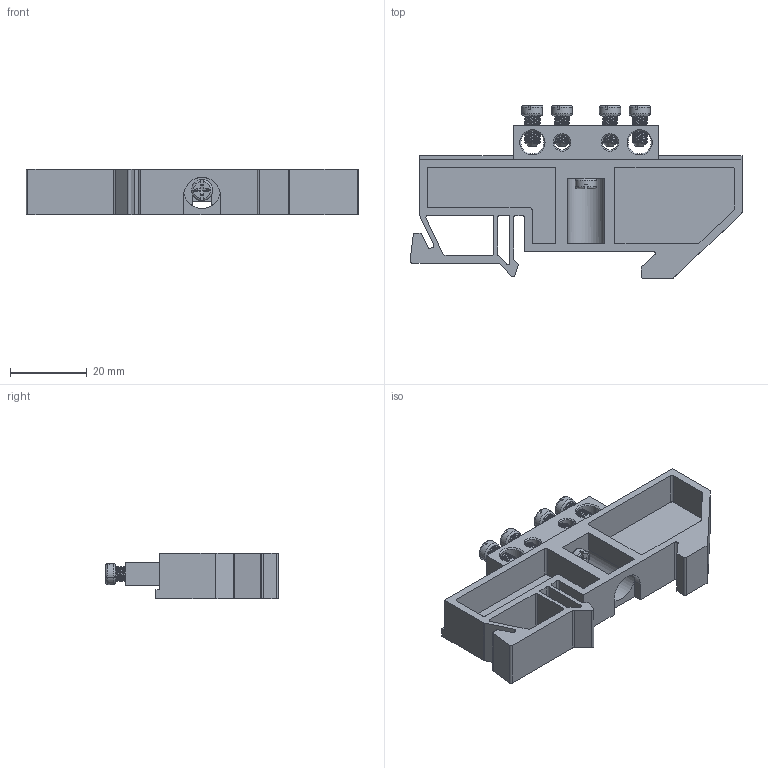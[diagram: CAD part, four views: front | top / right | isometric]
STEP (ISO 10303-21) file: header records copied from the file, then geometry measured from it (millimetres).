
FILE_DESCRIPTION (( 'STEP AP214' ), '1' );
FILE_NAME ('Øèíà íóëåâàÿ ñ DIN èçîëÿòîðîì 6õ9 4.STEP', '2020-02-06T11:30:34', ( '' ), ( '' ), 'SwSTEP 2.0', 'SolidWorks 2018', '' );
FILE_SCHEMA (( 'AUTOMOTIVE_DESIGN' ));
Length unit declared in the file: millimetre
Products named in the file (5): Øèíà íóëåâàÿ ñ êðåïåæíûì îòâåðñòèåì ïî öåíòðó 6õ9 4-1_1; Âèíò ì4; Øèíà 6õ9 4 1; DIN èçîëÿòîð; Øèíà íóëåâàÿ ñ DIN èçîëÿòîðîì 6õ9 4
Assembly tree (8 placements, depth 3):
  Øèíà íóëåâàÿ ñ DIN èçîëÿòîðîì 6õ9 4
    DIN èçîëÿòîð
    Øèíà íóëåâàÿ ñ êðåïåæíûì îòâåðñòèåì ïî öåíòðó 6õ9 4-1_1
      Øèíà 6õ9 4 1
      Âèíò ì4  x4
    Âèíò ì4
Bounding box: 86.63 x 45.1 x 12 mm (x, y, z)
Volume: 13759.2 mm3; surface area: 13129.4 mm2
Topology: 7 solids, 7 shells, 532 faces, 1473 edges, 942 vertices
Faces by surface type: plane 211, cylinder 194, cone 61, torus 36, bspline 20, sphere 10
Entity records: 10271 total; most frequent: CARTESIAN_POINT 3689, ORIENTED_EDGE 1348, DIRECTION 1310, EDGE_CURVE 674, AXIS2_PLACEMENT_3D 470, VERTEX_POINT 430, LINE 370, VECTOR 370
